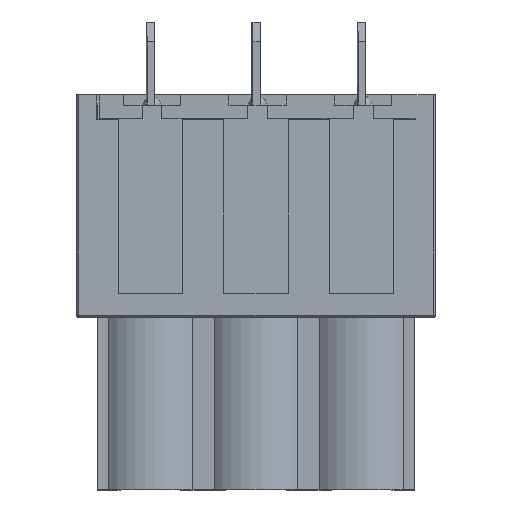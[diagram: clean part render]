
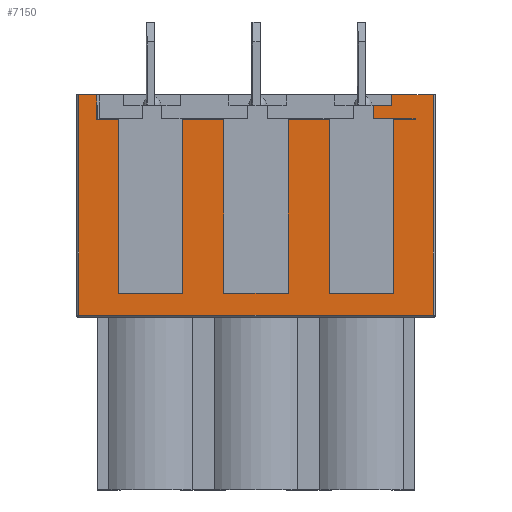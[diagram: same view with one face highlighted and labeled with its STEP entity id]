
A CAD part, top view. The second image highlights one B-rep face of the part: STEP entity #7150.
In plain terms, the highlighted planar face has unit normal (0, 0, 1).
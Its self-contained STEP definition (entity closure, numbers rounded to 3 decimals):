
#124=DIRECTION('',(1.,0.,0.));
#125=VECTOR('',#124,17.04);
#126=CARTESIAN_POINT('',(4.16,8.4,0.));
#127=LINE('',#126,#125);
#132=DIRECTION('',(1.,0.,0.));
#133=VECTOR('',#132,1.99);
#134=CARTESIAN_POINT('',(19.21,19.,0.));
#135=LINE('',#134,#133);
#136=DIRECTION('',(1.,0.,0.));
#137=VECTOR('',#136,0.87);
#138=CARTESIAN_POINT('',(4.16,19.,0.));
#139=LINE('',#138,#137);
#140=DIRECTION('',(0.,-1.,0.));
#141=VECTOR('',#140,1.2);
#142=CARTESIAN_POINT('',(5.03,19.,0.));
#143=LINE('',#142,#141);
#144=DIRECTION('',(1.,0.,0.));
#145=VECTOR('',#144,1.02);
#146=CARTESIAN_POINT('',(5.03,17.8,0.));
#147=LINE('',#146,#145);
#148=DIRECTION('',(1.,0.,0.));
#149=VECTOR('',#148,1.98);
#150=CARTESIAN_POINT('',(9.15,17.8,0.));
#151=LINE('',#150,#149);
#152=DIRECTION('',(0.,-1.,0.));
#153=VECTOR('',#152,8.35);
#154=CARTESIAN_POINT('',(11.13,17.8,0.));
#155=LINE('',#154,#153);
#156=DIRECTION('',(1.,0.,0.));
#157=VECTOR('',#156,3.1);
#158=CARTESIAN_POINT('',(11.13,9.45,0.));
#159=LINE('',#158,#157);
#164=DIRECTION('',(0.,-1.,0.));
#165=VECTOR('',#164,0.05);
#166=CARTESIAN_POINT('',(20.33,17.85,0.));
#167=LINE('',#166,#165);
#188=DIRECTION('',(1.,0.,0.));
#189=VECTOR('',#188,2.02);
#190=CARTESIAN_POINT('',(18.31,17.85,0.));
#191=LINE('',#190,#189);
#292=DIRECTION('',(0.,-1.,0.));
#293=VECTOR('',#292,0.5);
#294=CARTESIAN_POINT('',(19.21,19.,0.));
#295=LINE('',#294,#293);
#340=DIRECTION('',(-1.,0.,0.));
#341=VECTOR('',#340,0.9);
#342=CARTESIAN_POINT('',(19.21,18.5,0.));
#343=LINE('',#342,#341);
#1162=DIRECTION('',(0.,-1.,0.));
#1163=VECTOR('',#1162,10.6);
#1164=CARTESIAN_POINT('',(4.16,19.,0.));
#1165=LINE('',#1164,#1163);
#2764=DIRECTION('',(0.,1.,0.));
#2765=VECTOR('',#2764,10.6);
#2766=CARTESIAN_POINT('',(21.2,8.4,0.));
#2767=LINE('',#2766,#2765);
#5009=DIRECTION('',(-1.,0.,0.));
#5010=VECTOR('',#5009,1.02);
#5011=CARTESIAN_POINT('',(20.33,17.8,0.));
#5012=LINE('',#5011,#5010);
#5053=DIRECTION('',(0.,1.,0.));
#5054=VECTOR('',#5053,8.35);
#5055=CARTESIAN_POINT('',(6.05,9.45,0.));
#5056=LINE('',#5055,#5054);
#5061=DIRECTION('',(-1.,0.,0.));
#5062=VECTOR('',#5061,3.1);
#5063=CARTESIAN_POINT('',(9.15,9.45,0.));
#5064=LINE('',#5063,#5062);
#5085=DIRECTION('',(0.,-1.,0.));
#5086=VECTOR('',#5085,8.35);
#5087=CARTESIAN_POINT('',(9.15,17.8,0.));
#5088=LINE('',#5087,#5086);
#5113=DIRECTION('',(0.,-1.,0.));
#5114=VECTOR('',#5113,8.35);
#5115=CARTESIAN_POINT('',(14.23,17.8,0.));
#5116=LINE('',#5115,#5114);
#5125=DIRECTION('',(-1.,0.,0.));
#5126=VECTOR('',#5125,1.98);
#5127=CARTESIAN_POINT('',(16.21,17.8,0.));
#5128=LINE('',#5127,#5126);
#5133=DIRECTION('',(0.,1.,0.));
#5134=VECTOR('',#5133,8.35);
#5135=CARTESIAN_POINT('',(16.21,9.45,0.));
#5136=LINE('',#5135,#5134);
#5137=DIRECTION('',(-1.,0.,0.));
#5138=VECTOR('',#5137,3.1);
#5139=CARTESIAN_POINT('',(19.31,9.45,0.));
#5140=LINE('',#5139,#5138);
#5149=DIRECTION('',(0.,-1.,0.));
#5150=VECTOR('',#5149,8.35);
#5151=CARTESIAN_POINT('',(19.31,17.8,0.));
#5152=LINE('',#5151,#5150);
#5381=DIRECTION('',(0.,-1.,0.));
#5382=VECTOR('',#5381,0.65);
#5383=CARTESIAN_POINT('',(18.31,18.5,0.));
#5384=LINE('',#5383,#5382);
#5524=CARTESIAN_POINT('',(4.16,8.4,0.));
#5525=CARTESIAN_POINT('',(21.2,8.4,0.));
#5526=VERTEX_POINT('',#5524);
#5527=VERTEX_POINT('',#5525);
#5528=CARTESIAN_POINT('',(20.33,17.85,0.));
#5529=CARTESIAN_POINT('',(20.33,17.8,0.));
#5530=VERTEX_POINT('',#5528);
#5531=VERTEX_POINT('',#5529);
#5532=CARTESIAN_POINT('',(18.31,17.85,0.));
#5533=VERTEX_POINT('',#5532);
#5534=CARTESIAN_POINT('',(18.31,18.5,0.));
#5535=VERTEX_POINT('',#5534);
#5536=CARTESIAN_POINT('',(19.21,18.5,0.));
#5537=VERTEX_POINT('',#5536);
#5538=CARTESIAN_POINT('',(19.21,19.,0.));
#5539=VERTEX_POINT('',#5538);
#5540=CARTESIAN_POINT('',(21.2,19.,0.));
#5541=VERTEX_POINT('',#5540);
#5542=CARTESIAN_POINT('',(4.16,19.,0.));
#5543=VERTEX_POINT('',#5542);
#5544=CARTESIAN_POINT('',(5.03,19.,0.));
#5545=VERTEX_POINT('',#5544);
#5546=CARTESIAN_POINT('',(5.03,17.8,0.));
#5547=VERTEX_POINT('',#5546);
#5548=CARTESIAN_POINT('',(6.05,17.8,0.));
#5549=VERTEX_POINT('',#5548);
#5550=CARTESIAN_POINT('',(6.05,9.45,0.));
#5551=VERTEX_POINT('',#5550);
#5552=CARTESIAN_POINT('',(9.15,9.45,0.));
#5553=VERTEX_POINT('',#5552);
#5554=CARTESIAN_POINT('',(9.15,17.8,0.));
#5555=VERTEX_POINT('',#5554);
#5556=CARTESIAN_POINT('',(11.13,17.8,0.));
#5557=VERTEX_POINT('',#5556);
#5558=CARTESIAN_POINT('',(11.13,9.45,0.));
#5559=VERTEX_POINT('',#5558);
#5560=CARTESIAN_POINT('',(14.23,9.45,0.));
#5561=VERTEX_POINT('',#5560);
#5562=CARTESIAN_POINT('',(14.23,17.8,0.));
#5563=VERTEX_POINT('',#5562);
#5564=CARTESIAN_POINT('',(16.21,17.8,0.));
#5565=VERTEX_POINT('',#5564);
#5566=CARTESIAN_POINT('',(16.21,9.45,0.));
#5567=VERTEX_POINT('',#5566);
#5568=CARTESIAN_POINT('',(19.31,9.45,0.));
#5569=VERTEX_POINT('',#5568);
#5570=CARTESIAN_POINT('',(19.31,17.8,0.));
#5571=VERTEX_POINT('',#5570);
#7096=CARTESIAN_POINT('',(20.3,13.7,0.));
#7097=DIRECTION('',(0.,0.,1.));
#7098=DIRECTION('',(1.,0.,0.));
#7099=AXIS2_PLACEMENT_3D('',#7096,#7097,#7098);
#7100=PLANE('',#7099);
#7102=ORIENTED_EDGE('',*,*,#7101,.F.);
#7104=ORIENTED_EDGE('',*,*,#7103,.F.);
#7106=ORIENTED_EDGE('',*,*,#7105,.F.);
#7108=ORIENTED_EDGE('',*,*,#7107,.F.);
#7110=ORIENTED_EDGE('',*,*,#7109,.F.);
#7112=ORIENTED_EDGE('',*,*,#7111,.T.);
#7114=ORIENTED_EDGE('',*,*,#7113,.F.);
#7115=ORIENTED_EDGE('',*,*,#7086,.F.);
#7117=ORIENTED_EDGE('',*,*,#7116,.F.);
#7119=ORIENTED_EDGE('',*,*,#7118,.T.);
#7121=ORIENTED_EDGE('',*,*,#7120,.T.);
#7123=ORIENTED_EDGE('',*,*,#7122,.T.);
#7125=ORIENTED_EDGE('',*,*,#7124,.F.);
#7127=ORIENTED_EDGE('',*,*,#7126,.F.);
#7129=ORIENTED_EDGE('',*,*,#7128,.F.);
#7131=ORIENTED_EDGE('',*,*,#7130,.T.);
#7133=ORIENTED_EDGE('',*,*,#7132,.T.);
#7135=ORIENTED_EDGE('',*,*,#7134,.T.);
#7137=ORIENTED_EDGE('',*,*,#7136,.F.);
#7139=ORIENTED_EDGE('',*,*,#7138,.F.);
#7141=ORIENTED_EDGE('',*,*,#7140,.F.);
#7143=ORIENTED_EDGE('',*,*,#7142,.F.);
#7145=ORIENTED_EDGE('',*,*,#7144,.F.);
#7147=ORIENTED_EDGE('',*,*,#7146,.F.);
#7148=EDGE_LOOP('',(#7102,#7104,#7106,#7108,#7110,#7112,#7114,#7115,#7117,#7119,
#7121,#7123,#7125,#7127,#7129,#7131,#7133,#7135,#7137,#7139,#7141,#7143,#7145,
#7147));
#7149=FACE_OUTER_BOUND('',#7148,.F.);
#7150=ADVANCED_FACE('',(#7149),#7100,.T.);
#7086=EDGE_CURVE('',#5526,#5527,#127,.T.);
#7101=EDGE_CURVE('',#5530,#5531,#167,.T.);
#7103=EDGE_CURVE('',#5533,#5530,#191,.T.);
#7105=EDGE_CURVE('',#5535,#5533,#5384,.T.);
#7107=EDGE_CURVE('',#5537,#5535,#343,.T.);
#7109=EDGE_CURVE('',#5539,#5537,#295,.T.);
#7111=EDGE_CURVE('',#5539,#5541,#135,.T.);
#7113=EDGE_CURVE('',#5527,#5541,#2767,.T.);
#7116=EDGE_CURVE('',#5543,#5526,#1165,.T.);
#7118=EDGE_CURVE('',#5543,#5545,#139,.T.);
#7120=EDGE_CURVE('',#5545,#5547,#143,.T.);
#7122=EDGE_CURVE('',#5547,#5549,#147,.T.);
#7124=EDGE_CURVE('',#5551,#5549,#5056,.T.);
#7126=EDGE_CURVE('',#5553,#5551,#5064,.T.);
#7128=EDGE_CURVE('',#5555,#5553,#5088,.T.);
#7130=EDGE_CURVE('',#5555,#5557,#151,.T.);
#7132=EDGE_CURVE('',#5557,#5559,#155,.T.);
#7134=EDGE_CURVE('',#5559,#5561,#159,.T.);
#7136=EDGE_CURVE('',#5563,#5561,#5116,.T.);
#7138=EDGE_CURVE('',#5565,#5563,#5128,.T.);
#7140=EDGE_CURVE('',#5567,#5565,#5136,.T.);
#7142=EDGE_CURVE('',#5569,#5567,#5140,.T.);
#7144=EDGE_CURVE('',#5571,#5569,#5152,.T.);
#7146=EDGE_CURVE('',#5531,#5571,#5012,.T.);
